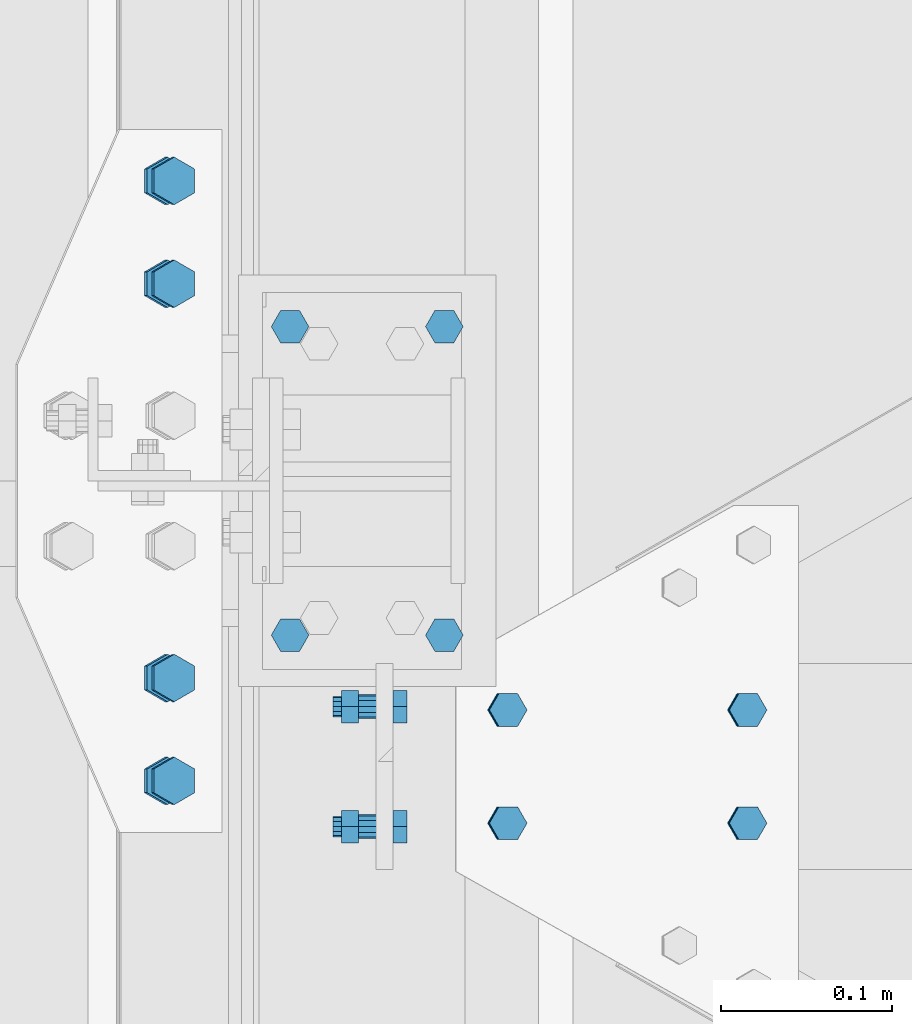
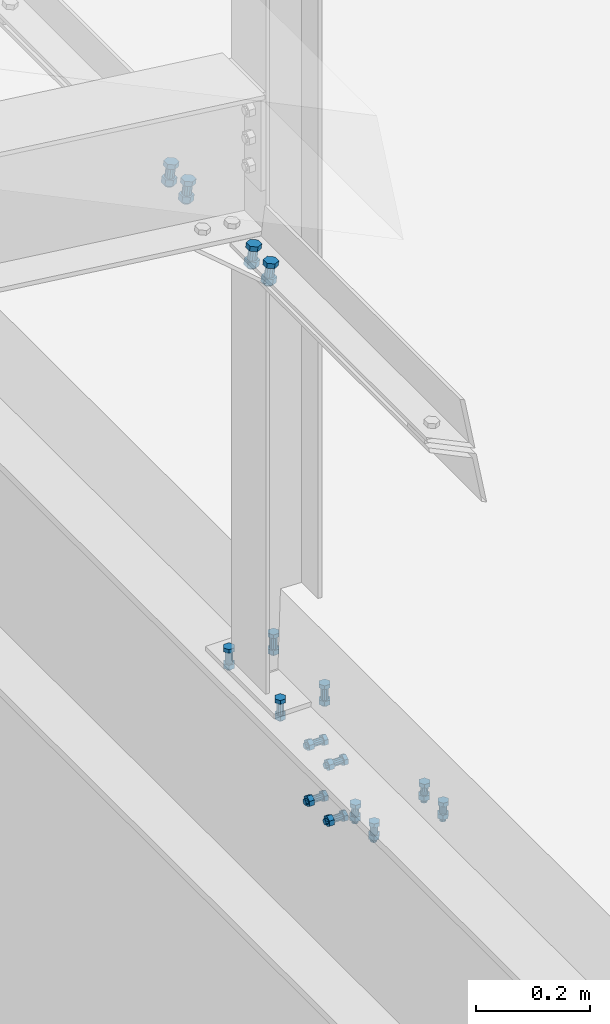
# One storey, part 379 of 3134: 5 mechanical fasteners, 4 elements without a shape of their own.
"""IFC2X3 building model written with IfcOpenShell, lengths in millimetres."""

from ifc_helpers import new_model, si_unit, frame, origin_with_axes, place, context, subcontext, project, spatial, faceted_brep, source, transform, mapped, material, type_object, element, aggregate, save


model = new_model("IFC2X3")

# Units and contexts
model_context = context("Model", 3, precision=1e-05, world=origin_with_axes())
body_context = subcontext(model_context, "Body", "Model", "MODEL_VIEW")
ifc_project = project(units=[si_unit("LENGTHUNIT", "METRE", prefix="MILLI"), si_unit("AREAUNIT", "SQUARE_METRE"), si_unit("VOLUMEUNIT", "CUBIC_METRE"), si_unit("MASSUNIT", "GRAM", prefix="KILO"), si_unit("TIMEUNIT", "SECOND"), si_unit("PLANEANGLEUNIT", "RADIAN"), si_unit("SOLIDANGLEUNIT", "STERADIAN"), si_unit("THERMODYNAMICTEMPERATUREUNIT", "DEGREE_CELSIUS"), si_unit("LUMINOUSINTENSITYUNIT", "LUMEN")], contexts=[model_context])

# Site, building, storey
site_placement = place(None, origin_with_axes())
site = spatial("IfcSite", under=ifc_project, at=site_placement, CompositionType="ELEMENT")
building_placement = place(site_placement, origin_with_axes())
building = spatial("IfcBuilding", under=site, at=building_placement, Name="Undefined", CompositionType="ELEMENT")
storey_placement = place(building_placement, origin_with_axes())
storey = spatial("IfcBuildingStorey", under=building, at=storey_placement, Name="Undefined", CompositionType="ELEMENT", Elevation=0.0)

# Assembly, mechanical fasteners
assembly_1_placement = place(storey_placement, origin_with_axes())
assembly_1 = element("IfcElementAssembly", 1, at=assembly_1_placement, inside=storey, Name="IPE500", AssemblyPlace="NOTDEFINED", PredefinedType="RIGID_FRAME")
ifc_material = material(Name="8.8")
mechanical_fastener_type = type_object("IfcMechanicalFastenerType", Name="Bolt assembly")
shared_shape_1 = source(origin_with_axes(), body_context, "Body", "Brep", [
    faceted_brep([(10.9696551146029, -18.0, 0.0), (5.48482755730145, -18.0, 9.5), (-5.48482755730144, -18.0, 9.5), (-10.9696551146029, -18.0, 1.34339530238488e-15), (-5.48482755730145, -18.0, -9.5), (5.48482755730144, -18.0, -9.50000000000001), (5.48482755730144, -10.0, -9.50000000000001), (-5.48482755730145, -10.0, -9.5), (-10.9696551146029, -10.0, 1.34339530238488e-15), (-5.48482755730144, -10.0, 9.5), (5.48482755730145, -10.0, 9.5), (10.9696551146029, -10.0, 0.0), (6.0, -10.0, 0.0), (5.19615242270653, -10.0, 3.00000000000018), (2.99999999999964, -10.0, 5.19615242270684), (-6.21801588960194e-13, -10.0, 6.0), (-3.00000000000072, -10.0, 5.19615242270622), (-5.19615242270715, -10.0, 2.9999999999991), (-6.0, -10.0, -1.24360317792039e-12), (-5.19615242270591, -10.0, -3.00000000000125), (-2.99999999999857, -10.0, -5.19615242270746), (1.85874342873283e-12, -10.0, -6.0), (3.00000000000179, -10.0, -5.1961524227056), (5.19615242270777, -10.0, -2.99999999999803), (5.19615242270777, 30.0, -2.99999999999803), (3.00000000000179, 30.0, -5.1961524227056), (1.85874342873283e-12, 30.0, -6.0), (-2.99999999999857, 30.0, -5.19615242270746), (-5.19615242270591, 30.0, -3.00000000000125), (-6.0, 30.0, -1.24360317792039e-12), (-5.19615242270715, 30.0, 2.9999999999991), (-3.00000000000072, 30.0, 5.19615242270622), (-6.21801588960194e-13, 30.0, 6.0), (2.99999999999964, 30.0, 5.19615242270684), (5.19615242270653, 30.0, 3.00000000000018), (6.0, 30.0, 0.0), (10.9696551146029, 16.0, 0.0), (5.48482755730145, 16.0, 9.5), (-5.48482755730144, 16.0, 9.5), (-10.9696551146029, 16.0, 1.34339530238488e-15), (-5.48482755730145, 16.0, -9.5), (5.48482755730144, 16.0, -9.50000000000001), (5.48482755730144, 26.0000003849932, -9.50000000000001), (-5.48482755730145, 26.0000003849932, -9.5), (-10.9696551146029, 26.0000003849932, 1.34339530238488e-15), (-5.48482755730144, 26.0000003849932, 9.5), (5.48482755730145, 26.0000003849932, 9.5), (10.9696551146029, 26.0000003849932, 0.0)], [[[0, 1, 2, 3, 4, 5]], [[6, 7, 8, 9, 10, 11]], [[0, 11, 10, 1]], [[1, 10, 9, 2]], [[2, 9, 8, 3]], [[3, 8, 7, 4]], [[4, 7, 6, 5]], [[5, 6, 11, 0]], [[12, 13, 14, 15, 16, 17, 18, 19, 20, 21, 22, 23]], [[24, 25, 26, 27, 28, 29, 30, 31, 32, 33, 34, 35]], [[12, 35, 34, 13]], [[13, 34, 33, 14]], [[14, 33, 32, 15]], [[15, 32, 31, 16]], [[16, 31, 30, 17]], [[17, 30, 29, 18]], [[18, 29, 28, 19]], [[19, 28, 27, 20]], [[20, 27, 26, 21]], [[21, 26, 25, 22]], [[22, 25, 24, 23]], [[23, 24, 35, 12]], [[36, 37, 38, 39, 40, 41]], [[42, 43, 44, 45, 46, 47]], [[36, 47, 46, 37]], [[37, 46, 45, 38]], [[38, 45, 44, 39]], [[39, 44, 43, 40]], [[40, 43, 42, 41]], [[41, 42, 47, 36]]]),
    faceted_brep([(7.0, -9.89999913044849, 0.0), (6.06217782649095, -9.89999913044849, 3.50000000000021), (3.49999999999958, -9.89999913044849, 6.06217782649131), (-7.25435187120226e-13, -9.89999913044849, 7.0), (-3.50000000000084, -9.89999913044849, 6.06217782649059), (-6.06217782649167, -9.89999913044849, 3.49999999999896), (-7.0, -9.89999913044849, -1.45087037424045e-12), (-6.06217782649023, -9.89999913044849, -3.50000000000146), (-3.49999999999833, -9.89999913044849, -6.06217782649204), (2.1685340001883e-12, -9.89999913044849, -7.0), (3.50000000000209, -9.89999913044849, -6.06217782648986), (6.0621778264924, -9.89999913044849, -3.4999999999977), (6.0621778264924, 0.0999999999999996, -3.4999999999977), (3.50000000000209, 0.0999999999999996, -6.06217782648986), (2.1685340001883e-12, 0.0999999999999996, -7.0), (-3.49999999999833, 0.0999999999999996, -6.06217782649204), (-6.06217782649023, 0.0999999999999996, -3.50000000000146), (-7.0, 0.0999999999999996, -1.45087037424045e-12), (-6.06217782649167, 0.0999999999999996, 3.49999999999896), (-3.50000000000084, 0.0999999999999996, 6.06217782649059), (-7.25435187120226e-13, 0.0999999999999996, 7.0), (3.49999999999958, 0.0999999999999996, 6.06217782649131), (6.06217782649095, 0.0999999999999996, 3.50000000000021), (7.0, 0.0999999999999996, 0.0), (7.0, -0.1, 0.0), (6.06217782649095, -0.1, 3.50000000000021), (3.49999999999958, -0.1, 6.06217782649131), (-7.25435187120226e-13, -0.1, 7.0), (-3.50000000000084, -0.1, 6.06217782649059), (-6.06217782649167, -0.1, 3.49999999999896), (-7.0, -0.1, -1.45087037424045e-12), (-6.06217782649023, -0.1, -3.50000000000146), (-3.49999999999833, -0.1, -6.06217782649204), (2.1685340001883e-12, -0.1, -7.0), (3.50000000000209, -0.1, -6.06217782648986), (6.0621778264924, -0.1, -3.4999999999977), (6.0621778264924, 16.0000003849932, -3.4999999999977), (3.50000000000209, 16.0000003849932, -6.06217782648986), (2.1685340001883e-12, 16.0000003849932, -7.0), (-3.49999999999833, 16.0000003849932, -6.06217782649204), (-6.06217782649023, 16.0000003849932, -3.50000000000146), (-7.0, 16.0000003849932, -1.45087037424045e-12), (-6.06217782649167, 16.0000003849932, 3.49999999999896), (-3.50000000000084, 16.0000003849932, 6.06217782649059), (-7.25435187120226e-13, 16.0000003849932, 7.0), (3.49999999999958, 16.0000003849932, 6.06217782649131), (6.06217782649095, 16.0000003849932, 3.50000000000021), (7.0, 16.0000003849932, 0.0)], [[[0, 1, 2, 3, 4, 5, 6, 7, 8, 9, 10, 11]], [[12, 13, 14, 15, 16, 17, 18, 19, 20, 21, 22, 23]], [[0, 23, 22, 1]], [[1, 22, 21, 2]], [[2, 21, 20, 3]], [[3, 20, 19, 4]], [[4, 19, 18, 5]], [[5, 18, 17, 6]], [[6, 17, 16, 7]], [[7, 16, 15, 8]], [[8, 15, 14, 9]], [[9, 14, 13, 10]], [[10, 13, 12, 11]], [[11, 12, 23, 0]], [[24, 25, 26, 27, 28, 29, 30, 31, 32, 33, 34, 35]], [[36, 37, 38, 39, 40, 41, 42, 43, 44, 45, 46, 47]], [[24, 47, 46, 25]], [[25, 46, 45, 26]], [[26, 45, 44, 27]], [[27, 44, 43, 28]], [[28, 43, 42, 29]], [[29, 42, 41, 30]], [[30, 41, 40, 31]], [[31, 40, 39, 32]], [[32, 39, 38, 33]], [[33, 38, 37, 34]], [[34, 37, 36, 35]], [[35, 36, 47, 24]]]),
])
mechanical_fastener_1_placement = place(assembly_1_placement, frame((71770.0, 22049.9999999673, 4000.00000038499), z_axis=(0.0, 1.0, 0.0), x_axis=(1.0, 0.0, 0.0)))
mechanical_fastener_1 = element("IfcMechanicalFastener", 2, at=mechanical_fastener_1_placement, type_object=mechanical_fastener_type, material=ifc_material, Name="Bolt assembly", NominalDiameter=12.0, NominalLength=40.0, context=body_context, shape_type="MappedRepresentation", body=[
    mapped(shared_shape_1, transform((0.0, 0.0, -90.0))),
    mapped(shared_shape_1, transform((90.0, 0.0, -90.0))),
    mapped(shared_shape_1, transform((0.0, 0.0, 90.0))),
    mapped(shared_shape_1, transform((90.0, 0.0, 90.0))),
])
shared_shape_2 = source(origin_with_axes(), body_context, "Body", "Brep", [
    faceted_brep([(10.9696551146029, -18.0, 0.0), (5.48482755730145, -18.0, 9.5), (-5.48482755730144, -18.0, 9.5), (-10.9696551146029, -18.0, 1.34339530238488e-15), (-5.48482755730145, -18.0, -9.5), (5.48482755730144, -18.0, -9.50000000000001), (5.48482755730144, -10.0, -9.50000000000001), (-5.48482755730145, -10.0, -9.5), (-10.9696551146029, -10.0, 1.34339530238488e-15), (-5.48482755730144, -10.0, 9.5), (5.48482755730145, -10.0, 9.5), (10.9696551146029, -10.0, 0.0), (6.0, -10.0, 0.0), (5.19615242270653, -10.0, 3.00000000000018), (2.99999999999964, -10.0, 5.19615242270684), (-6.21801588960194e-13, -10.0, 6.0), (-3.00000000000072, -10.0, 5.19615242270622), (-5.19615242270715, -10.0, 2.9999999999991), (-6.0, -10.0, -1.24360317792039e-12), (-5.19615242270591, -10.0, -3.00000000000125), (-2.99999999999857, -10.0, -5.19615242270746), (1.85874342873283e-12, -10.0, -6.0), (3.00000000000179, -10.0, -5.1961524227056), (5.19615242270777, -10.0, -2.99999999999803), (5.19615242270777, 24.9999999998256, -2.99999999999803), (3.00000000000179, 24.9999999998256, -5.1961524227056), (1.85874342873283e-12, 24.9999999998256, -6.0), (-2.99999999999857, 24.9999999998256, -5.19615242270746), (-5.19615242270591, 24.9999999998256, -3.00000000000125), (-6.0, 24.9999999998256, -1.24360317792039e-12), (-5.19615242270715, 24.9999999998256, 2.9999999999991), (-3.00000000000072, 24.9999999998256, 5.19615242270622), (-6.21801588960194e-13, 24.9999999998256, 6.0), (2.99999999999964, 24.9999999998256, 5.19615242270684), (5.19615242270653, 24.9999999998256, 3.00000000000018), (6.0, 24.9999999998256, 0.0), (10.9696551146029, 10.1999998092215, 0.0), (5.48482755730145, 10.1999998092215, 9.5), (-5.48482755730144, 10.1999998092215, 9.5), (-10.9696551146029, 10.1999998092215, 1.34339530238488e-15), (-5.48482755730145, 10.1999998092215, -9.5), (5.48482755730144, 10.1999998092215, -9.50000000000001), (5.48482755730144, 20.1999998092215, -9.50000000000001), (-5.48482755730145, 20.1999998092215, -9.5), (-10.9696551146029, 20.1999998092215, 1.34339530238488e-15), (-5.48482755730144, 20.1999998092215, 9.5), (5.48482755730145, 20.1999998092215, 9.5), (10.9696551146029, 20.1999998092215, 0.0)], [[[0, 1, 2, 3, 4, 5]], [[6, 7, 8, 9, 10, 11]], [[0, 11, 10, 1]], [[1, 10, 9, 2]], [[2, 9, 8, 3]], [[3, 8, 7, 4]], [[4, 7, 6, 5]], [[5, 6, 11, 0]], [[12, 13, 14, 15, 16, 17, 18, 19, 20, 21, 22, 23]], [[24, 25, 26, 27, 28, 29, 30, 31, 32, 33, 34, 35]], [[12, 35, 34, 13]], [[13, 34, 33, 14]], [[14, 33, 32, 15]], [[15, 32, 31, 16]], [[16, 31, 30, 17]], [[17, 30, 29, 18]], [[18, 29, 28, 19]], [[19, 28, 27, 20]], [[20, 27, 26, 21]], [[21, 26, 25, 22]], [[22, 25, 24, 23]], [[23, 24, 35, 12]], [[36, 37, 38, 39, 40, 41]], [[42, 43, 44, 45, 46, 47]], [[36, 47, 46, 37]], [[37, 46, 45, 38]], [[38, 45, 44, 39]], [[39, 44, 43, 40]], [[40, 43, 42, 41]], [[41, 42, 47, 36]]]),
    faceted_brep([(7.0, -9.89999913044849, 0.0), (6.06217782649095, -9.89999913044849, 3.50000000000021), (3.49999999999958, -9.89999913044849, 6.06217782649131), (-7.25435187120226e-13, -9.89999913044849, 7.0), (-3.50000000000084, -9.89999913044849, 6.06217782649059), (-6.06217782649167, -9.89999913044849, 3.49999999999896), (-7.0, -9.89999913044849, -1.45087037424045e-12), (-6.06217782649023, -9.89999913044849, -3.50000000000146), (-3.49999999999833, -9.89999913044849, -6.06217782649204), (2.1685340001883e-12, -9.89999913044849, -7.0), (3.50000000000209, -9.89999913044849, -6.06217782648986), (6.0621778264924, -9.89999913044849, -3.4999999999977), (6.0621778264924, 0.0999999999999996, -3.4999999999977), (3.50000000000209, 0.0999999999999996, -6.06217782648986), (2.1685340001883e-12, 0.0999999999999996, -7.0), (-3.49999999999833, 0.0999999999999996, -6.06217782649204), (-6.06217782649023, 0.0999999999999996, -3.50000000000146), (-7.0, 0.0999999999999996, -1.45087037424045e-12), (-6.06217782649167, 0.0999999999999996, 3.49999999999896), (-3.50000000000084, 0.0999999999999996, 6.06217782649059), (-7.25435187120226e-13, 0.0999999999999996, 7.0), (3.49999999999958, 0.0999999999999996, 6.06217782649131), (6.06217782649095, 0.0999999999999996, 3.50000000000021), (7.0, 0.0999999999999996, 0.0), (7.0, -0.1, 0.0), (6.06217782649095, -0.1, 3.50000000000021), (3.49999999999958, -0.1, 6.06217782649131), (-7.25435187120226e-13, -0.1, 7.0), (-3.50000000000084, -0.1, 6.06217782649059), (-6.06217782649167, -0.1, 3.49999999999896), (-7.0, -0.1, -1.45087037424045e-12), (-6.06217782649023, -0.1, -3.50000000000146), (-3.49999999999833, -0.1, -6.06217782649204), (2.1685340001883e-12, -0.1, -7.0), (3.50000000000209, -0.1, -6.06217782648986), (6.0621778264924, -0.1, -3.4999999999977), (6.0621778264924, 10.1999998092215, -3.4999999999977), (3.50000000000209, 10.1999998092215, -6.06217782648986), (2.1685340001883e-12, 10.1999998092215, -7.0), (-3.49999999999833, 10.1999998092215, -6.06217782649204), (-6.06217782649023, 10.1999998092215, -3.50000000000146), (-7.0, 10.1999998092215, -1.45087037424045e-12), (-6.06217782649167, 10.1999998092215, 3.49999999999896), (-3.50000000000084, 10.1999998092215, 6.06217782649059), (-7.25435187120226e-13, 10.1999998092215, 7.0), (3.49999999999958, 10.1999998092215, 6.06217782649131), (6.06217782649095, 10.1999998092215, 3.50000000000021), (7.0, 10.1999998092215, 0.0)], [[[0, 1, 2, 3, 4, 5, 6, 7, 8, 9, 10, 11]], [[12, 13, 14, 15, 16, 17, 18, 19, 20, 21, 22, 23]], [[0, 23, 22, 1]], [[1, 22, 21, 2]], [[2, 21, 20, 3]], [[3, 20, 19, 4]], [[4, 19, 18, 5]], [[5, 18, 17, 6]], [[6, 17, 16, 7]], [[7, 16, 15, 8]], [[8, 15, 14, 9]], [[9, 14, 13, 10]], [[10, 13, 12, 11]], [[11, 12, 23, 0]], [[24, 25, 26, 27, 28, 29, 30, 31, 32, 33, 34, 35]], [[36, 37, 38, 39, 40, 41, 42, 43, 44, 45, 46, 47]], [[24, 47, 46, 25]], [[25, 46, 45, 26]], [[26, 45, 44, 27]], [[27, 44, 43, 28]], [[28, 43, 42, 29]], [[29, 42, 41, 30]], [[30, 41, 40, 31]], [[31, 40, 39, 32]], [[32, 39, 38, 33]], [[33, 38, 37, 34]], [[34, 37, 36, 35]], [[35, 36, 47, 24]]]),
])
mechanical_fastener_2_placement = place(assembly_1_placement, frame((71820.0999999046, 21883.333332, 3929.41660800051), z_axis=(0.0, 1.0, 0.0), x_axis=(0.0, 0.0, -1.0)))
mechanical_fastener_2 = element("IfcMechanicalFastener", 3, at=mechanical_fastener_2_placement, type_object=mechanical_fastener_type, material=ifc_material, Name="Bolt assembly", NominalDiameter=12.0, NominalLength=35.0, context=body_context, shape_type="MappedRepresentation", body=[
    mapped(shared_shape_2, transform((0.0, 0.0, -35.0))),
    mapped(shared_shape_2, transform((120.0, 0.0, -35.0))),
    mapped(shared_shape_2, transform((0.0, 0.0, 35.0))),
    mapped(shared_shape_2, transform((120.0, 0.0, 35.0))),
])
aggregate(assembly_1, [mechanical_fastener_2, mechanical_fastener_1])

# Assembly, mechanical fastener
assembly_2_placement = place(storey_placement, origin_with_axes())
assembly_2 = element("IfcElementAssembly", 4, at=assembly_2_placement, inside=storey, Name="IPE240", AssemblyPlace="NOTDEFINED", PredefinedType="RIGID_FRAME")
shared_shape_3 = source(origin_with_axes(), body_context, "Body", "Brep", [
    faceted_brep([(10.9696551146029, -17.8000021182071, 0.0), (5.48482755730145, -17.8000021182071, 9.5), (-5.48482755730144, -17.8000021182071, 9.5), (-10.9696551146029, -17.8000021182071, 1.34339530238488e-15), (-5.48482755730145, -17.8000021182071, -9.5), (5.48482755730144, -17.8000021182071, -9.50000000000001), (5.48482755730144, -9.80000211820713, -9.50000000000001), (-5.48482755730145, -9.80000211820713, -9.5), (-10.9696551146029, -9.80000211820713, 1.34339530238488e-15), (-5.48482755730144, -9.80000211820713, 9.5), (5.48482755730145, -9.80000211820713, 9.5), (10.9696551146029, -9.80000211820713, 0.0), (6.0, -9.80000211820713, 0.0), (5.19615242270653, -9.80000211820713, 3.00000000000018), (2.99999999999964, -9.80000211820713, 5.19615242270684), (-6.21801588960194e-13, -9.80000211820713, 6.0), (-3.00000000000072, -9.80000211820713, 5.19615242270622), (-5.19615242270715, -9.80000211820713, 2.9999999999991), (-6.0, -9.80000211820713, -1.24360317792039e-12), (-5.19615242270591, -9.80000211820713, -3.00000000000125), (-2.99999999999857, -9.80000211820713, -5.19615242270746), (1.85874342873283e-12, -9.80000211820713, -6.0), (3.00000000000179, -9.80000211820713, -5.1961524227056), (5.19615242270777, -9.80000211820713, -2.99999999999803), (5.19615242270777, 25.1999978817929, -2.99999999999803), (3.00000000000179, 25.1999978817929, -5.1961524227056), (1.85874342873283e-12, 25.1999978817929, -6.0), (-2.99999999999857, 25.1999978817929, -5.19615242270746), (-5.19615242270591, 25.1999978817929, -3.00000000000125), (-6.0, 25.1999978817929, -1.24360317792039e-12), (-5.19615242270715, 25.1999978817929, 2.9999999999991), (-3.00000000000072, 25.1999978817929, 5.19615242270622), (-6.21801588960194e-13, 25.1999978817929, 6.0), (2.99999999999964, 25.1999978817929, 5.19615242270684), (5.19615242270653, 25.1999978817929, 3.00000000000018), (6.0, 25.1999978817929, 0.0), (10.9696551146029, 8.0, 0.0), (5.48482755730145, 8.0, 9.5), (-5.48482755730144, 8.0, 9.5), (-10.9696551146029, 8.0, 1.34339530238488e-15), (-5.48482755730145, 8.0, -9.5), (5.48482755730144, 8.0, -9.50000000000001), (5.48482755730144, 18.0, -9.50000000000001), (-5.48482755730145, 18.0, -9.5), (-10.9696551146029, 18.0, 1.34339530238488e-15), (-5.48482755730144, 18.0, 9.5), (5.48482755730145, 18.0, 9.5), (10.9696551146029, 18.0, 0.0)], [[[0, 1, 2, 3, 4, 5]], [[6, 7, 8, 9, 10, 11]], [[0, 11, 10, 1]], [[1, 10, 9, 2]], [[2, 9, 8, 3]], [[3, 8, 7, 4]], [[4, 7, 6, 5]], [[5, 6, 11, 0]], [[12, 13, 14, 15, 16, 17, 18, 19, 20, 21, 22, 23]], [[24, 25, 26, 27, 28, 29, 30, 31, 32, 33, 34, 35]], [[12, 35, 34, 13]], [[13, 34, 33, 14]], [[14, 33, 32, 15]], [[15, 32, 31, 16]], [[16, 31, 30, 17]], [[17, 30, 29, 18]], [[18, 29, 28, 19]], [[19, 28, 27, 20]], [[20, 27, 26, 21]], [[21, 26, 25, 22]], [[22, 25, 24, 23]], [[23, 24, 35, 12]], [[36, 37, 38, 39, 40, 41]], [[42, 43, 44, 45, 46, 47]], [[36, 47, 46, 37]], [[37, 46, 45, 38]], [[38, 45, 44, 39]], [[39, 44, 43, 40]], [[40, 43, 42, 41]], [[41, 42, 47, 36]]]),
    faceted_brep([(7.0, -0.1, 0.0), (6.06217782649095, -0.1, 3.50000000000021), (3.49999999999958, -0.1, 6.06217782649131), (-7.25435187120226e-13, -0.1, 7.0), (-3.50000000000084, -0.1, 6.06217782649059), (-6.06217782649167, -0.1, 3.49999999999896), (-7.0, -0.1, -1.45087037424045e-12), (-6.06217782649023, -0.1, -3.50000000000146), (-3.49999999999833, -0.1, -6.06217782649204), (2.1685340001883e-12, -0.1, -7.0), (3.50000000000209, -0.1, -6.06217782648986), (6.0621778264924, -0.1, -3.4999999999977), (6.0621778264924, 8.0000000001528, -3.4999999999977), (3.50000000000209, 8.0000000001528, -6.06217782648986), (2.1685340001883e-12, 8.0000000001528, -7.0), (-3.49999999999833, 8.0000000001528, -6.06217782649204), (-6.06217782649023, 8.0000000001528, -3.50000000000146), (-7.0, 8.0000000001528, -1.45087037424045e-12), (-6.06217782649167, 8.0000000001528, 3.49999999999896), (-3.50000000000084, 8.0000000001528, 6.06217782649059), (-7.25435187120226e-13, 8.0000000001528, 7.0), (3.49999999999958, 8.0000000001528, 6.06217782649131), (6.06217782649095, 8.0000000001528, 3.50000000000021), (7.0, 8.0000000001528, 0.0), (7.0, -9.70000211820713, 0.0), (6.06217782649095, -9.70000211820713, 3.50000000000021), (3.49999999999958, -9.70000211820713, 6.06217782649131), (-7.25435187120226e-13, -9.70000211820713, 7.0), (-3.50000000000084, -9.70000211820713, 6.06217782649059), (-6.06217782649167, -9.70000211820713, 3.49999999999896), (-7.0, -9.70000211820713, -1.45087037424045e-12), (-6.06217782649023, -9.70000211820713, -3.50000000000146), (-3.49999999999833, -9.70000211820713, -6.06217782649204), (2.1685340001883e-12, -9.70000211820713, -7.0), (3.50000000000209, -9.70000211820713, -6.06217782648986), (6.0621778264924, -9.70000211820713, -3.4999999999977), (6.0621778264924, 0.0999999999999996, -3.4999999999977), (3.50000000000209, 0.0999999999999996, -6.06217782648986), (2.1685340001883e-12, 0.0999999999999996, -7.0), (-3.49999999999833, 0.0999999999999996, -6.06217782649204), (-6.06217782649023, 0.0999999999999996, -3.50000000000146), (-7.0, 0.0999999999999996, -1.45087037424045e-12), (-6.06217782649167, 0.0999999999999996, 3.49999999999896), (-3.50000000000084, 0.0999999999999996, 6.06217782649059), (-7.25435187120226e-13, 0.0999999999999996, 7.0), (3.49999999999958, 0.0999999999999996, 6.06217782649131), (6.06217782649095, 0.0999999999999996, 3.50000000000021), (7.0, 0.0999999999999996, 0.0)], [[[0, 1, 2, 3, 4, 5, 6, 7, 8, 9, 10, 11]], [[12, 13, 14, 15, 16, 17, 18, 19, 20, 21, 22, 23]], [[0, 23, 22, 1]], [[1, 22, 21, 2]], [[2, 21, 20, 3]], [[3, 20, 19, 4]], [[4, 19, 18, 5]], [[5, 18, 17, 6]], [[6, 17, 16, 7]], [[7, 16, 15, 8]], [[8, 15, 14, 9]], [[9, 14, 13, 10]], [[10, 13, 12, 11]], [[11, 12, 23, 0]], [[24, 25, 26, 27, 28, 29, 30, 31, 32, 33, 34, 35]], [[36, 37, 38, 39, 40, 41, 42, 43, 44, 45, 46, 47]], [[24, 47, 46, 25]], [[25, 46, 45, 26]], [[26, 45, 44, 27]], [[27, 44, 43, 28]], [[28, 43, 42, 29]], [[29, 42, 41, 30]], [[30, 41, 40, 31]], [[31, 40, 39, 32]], [[32, 39, 38, 33]], [[33, 38, 37, 34]], [[34, 37, 36, 35]], [[35, 36, 47, 24]]]),
])
mechanical_fastener_3_placement = place(assembly_2_placement, frame((72036.6725219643, 21883.3332750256, 3753.01286267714), z_axis=(1.20000009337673e-06, -0.99999999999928, 0.0), x_axis=(-0.999519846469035, -1.79913593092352e-06, 0.0309851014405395)))
mechanical_fastener_3 = element("IfcMechanicalFastener", 5, at=mechanical_fastener_3_placement, type_object=mechanical_fastener_type, material=ifc_material, Name="Bolt assembly", NominalDiameter=12.0, NominalLength=35.0, context=body_context, shape_type="MappedRepresentation", body=[
    mapped(shared_shape_3, transform((0.0, 0.0, -33.0))),
    mapped(shared_shape_3, transform((140.000000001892, -1.64072844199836e-09, -32.9999999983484))),
    mapped(shared_shape_3, transform((0.0, 0.0, 33.0))),
    mapped(shared_shape_3, transform((140.000000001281, -1.73167791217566e-09, 33.0000000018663))),
])
aggregate(assembly_2, [mechanical_fastener_3])

assembly_3_placement = place(storey_placement, origin_with_axes())
assembly_3 = element("IfcElementAssembly", 6, at=assembly_3_placement, inside=storey, AssemblyPlace="NOTDEFINED", PredefinedType="RIGID_FRAME")
shared_shape_4 = source(origin_with_axes(), body_context, "Body", "Brep", [
    faceted_brep([(13.856406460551, -21.0000017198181, 0.0), (6.92820323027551, -21.0000017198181, 12.0), (-6.92820323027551, -21.0000017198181, 12.0), (-13.856406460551, -21.0000017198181, 1.69692038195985e-15), (-6.92820323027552, -21.0000017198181, -12.0), (6.9282032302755, -21.0000017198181, -12.0), (6.9282032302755, -11.0000017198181, -12.0), (-6.92820323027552, -11.0000017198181, -12.0), (-13.856406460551, -11.0000017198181, 1.69692038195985e-15), (-6.92820323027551, -11.0000017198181, 12.0), (6.92820323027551, -11.0000017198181, 12.0), (13.856406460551, -11.0000017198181, 0.0), (8.0, -11.0000017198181, 0.0), (6.92820323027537, -11.0000017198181, 4.00000000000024), (3.99999999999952, -11.0000017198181, 6.92820323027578), (-8.29068785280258e-13, -11.0000017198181, 8.0), (-4.00000000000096, -11.0000017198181, 6.92820323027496), (-6.9282032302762, -11.0000017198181, 3.99999999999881), (-8.0, -11.0000017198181, -1.65813757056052e-12), (-6.92820323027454, -11.0000017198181, -4.00000000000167), (-3.99999999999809, -11.0000017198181, -6.92820323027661), (2.47832457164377e-12, -11.0000017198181, -8.0), (4.00000000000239, -11.0000017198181, -6.92820323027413), (6.92820323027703, -11.0000017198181, -3.99999999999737), (6.92820323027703, 29.0, -3.99999999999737), (4.00000000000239, 29.0, -6.92820323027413), (2.47832457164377e-12, 29.0, -8.0), (-3.99999999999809, 29.0, -6.92820323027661), (-6.92820323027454, 29.0, -4.00000000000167), (-8.0, 29.0, -1.65813757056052e-12), (-6.9282032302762, 29.0, 3.99999999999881), (-4.00000000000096, 29.0, 6.92820323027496), (-8.29068785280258e-13, 29.0, 8.0), (3.99999999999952, 29.0, 6.92820323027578), (6.92820323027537, 29.0, 4.00000000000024), (8.0, 29.0, 0.0), (13.856406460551, 10.9979999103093, 0.0), (6.92820323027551, 10.9979999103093, 12.0), (-6.92820323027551, 10.9979999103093, 12.0), (-13.856406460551, 10.9979999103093, 1.69692038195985e-15), (-6.92820323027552, 10.9979999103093, -12.0), (6.9282032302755, 10.9979999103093, -12.0), (6.9282032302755, 23.9979999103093, -12.0), (-6.92820323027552, 23.9979999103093, -12.0), (-13.856406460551, 23.9979999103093, 1.69692038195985e-15), (-6.92820323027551, 23.9979999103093, 12.0), (6.92820323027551, 23.9979999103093, 12.0), (13.856406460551, 23.9979999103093, 0.0)], [[[0, 1, 2, 3, 4, 5]], [[6, 7, 8, 9, 10, 11]], [[0, 11, 10, 1]], [[1, 10, 9, 2]], [[2, 9, 8, 3]], [[3, 8, 7, 4]], [[4, 7, 6, 5]], [[5, 6, 11, 0]], [[12, 13, 14, 15, 16, 17, 18, 19, 20, 21, 22, 23]], [[24, 25, 26, 27, 28, 29, 30, 31, 32, 33, 34, 35]], [[12, 35, 34, 13]], [[13, 34, 33, 14]], [[14, 33, 32, 15]], [[15, 32, 31, 16]], [[16, 31, 30, 17]], [[17, 30, 29, 18]], [[18, 29, 28, 19]], [[19, 28, 27, 20]], [[20, 27, 26, 21]], [[21, 26, 25, 22]], [[22, 25, 24, 23]], [[23, 24, 35, 12]], [[36, 37, 38, 39, 40, 41]], [[42, 43, 44, 45, 46, 47]], [[36, 47, 46, 37]], [[37, 46, 45, 38]], [[38, 45, 44, 39]], [[39, 44, 43, 40]], [[40, 43, 42, 41]], [[41, 42, 47, 36]]]),
    faceted_brep([(9.0, -10.9000017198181, 0.0), (7.79422863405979, -10.9000017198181, 4.50000000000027), (4.49999999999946, -10.9000017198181, 7.79422863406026), (-9.3270238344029e-13, -10.9000017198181, 9.0), (-4.50000000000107, -10.9000017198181, 7.79422863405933), (-7.79422863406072, -10.9000017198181, 4.49999999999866), (-9.0, -10.9000017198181, -1.86540476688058e-12), (-7.79422863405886, -10.9000017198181, -4.50000000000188), (-4.49999999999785, -10.9000017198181, -7.79422863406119), (2.78811514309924e-12, -10.9000017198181, -9.0), (4.50000000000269, -10.9000017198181, -7.7942286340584), (7.79422863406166, -10.9000017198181, -4.49999999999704), (7.79422863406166, -3.9, -4.49999999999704), (4.50000000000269, -3.9, -7.7942286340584), (2.78811514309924e-12, -3.9, -9.0), (-4.49999999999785, -3.9, -7.79422863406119), (-7.79422863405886, -3.9, -4.50000000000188), (-9.0, -3.9, -1.86540476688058e-12), (-7.79422863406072, -3.9, 4.49999999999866), (-4.50000000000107, -3.9, 7.79422863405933), (-9.3270238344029e-13, -3.9, 9.0), (4.49999999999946, -3.9, 7.79422863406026), (7.79422863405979, -3.9, 4.50000000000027), (9.0, -3.9, 0.0), (9.0, 3.89799991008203, 0.0), (7.79422863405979, 3.89799991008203, 4.50000000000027), (4.49999999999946, 3.89799991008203, 7.79422863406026), (-9.3270238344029e-13, 3.89799991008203, 9.0), (-4.50000000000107, 3.89799991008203, 7.79422863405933), (-7.79422863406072, 3.89799991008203, 4.49999999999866), (-9.0, 3.89799991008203, -1.86540476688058e-12), (-7.79422863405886, 3.89799991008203, -4.50000000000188), (-4.49999999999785, 3.89799991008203, -7.79422863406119), (2.78811514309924e-12, 3.89799991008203, -9.0), (4.50000000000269, 3.89799991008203, -7.7942286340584), (7.79422863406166, 3.89799991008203, -4.49999999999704), (7.79422863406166, 10.9979999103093, -4.49999999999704), (4.50000000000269, 10.9979999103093, -7.7942286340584), (2.78811514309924e-12, 10.9979999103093, -9.0), (-4.49999999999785, 10.9979999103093, -7.79422863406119), (-7.79422863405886, 10.9979999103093, -4.50000000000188), (-9.0, 10.9979999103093, -1.86540476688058e-12), (-7.79422863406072, 10.9979999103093, 4.49999999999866), (-4.50000000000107, 10.9979999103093, 7.79422863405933), (-9.3270238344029e-13, 10.9979999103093, 9.0), (4.49999999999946, 10.9979999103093, 7.79422863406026), (7.79422863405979, 10.9979999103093, 4.50000000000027), (9.0, 10.9979999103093, 0.0), (9.0, -3.99999624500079, 0.0), (7.79422863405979, -3.99999624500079, 4.50000000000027), (4.49999999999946, -3.99999624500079, 7.79422863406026), (-9.3270238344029e-13, -3.99999624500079, 9.0), (-4.50000000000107, -3.99999624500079, 7.79422863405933), (-7.79422863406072, -3.99999624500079, 4.49999999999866), (-9.0, -3.99999624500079, -1.86540476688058e-12), (-7.79422863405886, -3.99999624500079, -4.50000000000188), (-4.49999999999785, -3.99999624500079, -7.79422863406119), (2.78811514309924e-12, -3.99999624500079, -9.0), (4.50000000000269, -3.99999624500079, -7.7942286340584), (7.79422863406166, -3.99999624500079, -4.49999999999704), (7.79422863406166, 4.00000375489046, -4.49999999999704), (4.50000000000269, 4.00000375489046, -7.7942286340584), (2.78811514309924e-12, 4.00000375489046, -9.0), (-4.49999999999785, 4.00000375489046, -7.79422863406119), (-7.79422863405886, 4.00000375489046, -4.50000000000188), (-9.0, 4.00000375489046, -1.86540476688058e-12), (-7.79422863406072, 4.00000375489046, 4.49999999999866), (-4.50000000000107, 4.00000375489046, 7.79422863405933), (-9.3270238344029e-13, 4.00000375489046, 9.0), (4.49999999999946, 4.00000375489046, 7.79422863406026), (7.79422863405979, 4.00000375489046, 4.50000000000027), (9.0, 4.00000375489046, 0.0)], [[[0, 1, 2, 3, 4, 5, 6, 7, 8, 9, 10, 11]], [[12, 13, 14, 15, 16, 17, 18, 19, 20, 21, 22, 23]], [[0, 23, 22, 1]], [[1, 22, 21, 2]], [[2, 21, 20, 3]], [[3, 20, 19, 4]], [[4, 19, 18, 5]], [[5, 18, 17, 6]], [[6, 17, 16, 7]], [[7, 16, 15, 8]], [[8, 15, 14, 9]], [[9, 14, 13, 10]], [[10, 13, 12, 11]], [[11, 12, 23, 0]], [[24, 25, 26, 27, 28, 29, 30, 31, 32, 33, 34, 35]], [[36, 37, 38, 39, 40, 41, 42, 43, 44, 45, 46, 47]], [[24, 47, 46, 25]], [[25, 46, 45, 26]], [[26, 45, 44, 27]], [[27, 44, 43, 28]], [[28, 43, 42, 29]], [[29, 42, 41, 30]], [[30, 41, 40, 31]], [[31, 40, 39, 32]], [[32, 39, 38, 33]], [[33, 38, 37, 34]], [[34, 37, 36, 35]], [[35, 36, 47, 24]], [[48, 49, 50, 51, 52, 53, 54, 55, 56, 57, 58, 59]], [[60, 61, 62, 63, 64, 65, 66, 67, 68, 69, 70, 71]], [[48, 71, 70, 49]], [[49, 70, 69, 50]], [[50, 69, 68, 51]], [[51, 68, 67, 52]], [[52, 67, 66, 53]], [[53, 66, 65, 54]], [[54, 65, 64, 55]], [[55, 64, 63, 56]], [[56, 63, 62, 57]], [[57, 62, 61, 58]], [[58, 61, 60, 59]], [[59, 60, 71, 48]]]),
])
mechanical_fastener_4_placement = place(assembly_3_placement, frame((71699.8954149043, 22164.9999997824, 5008.88935537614), z_axis=(-0.992623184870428, 0.0, 0.121240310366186), x_axis=(0.0, 1.0, 0.0)))
mechanical_fastener_4 = element("IfcMechanicalFastener", 7, at=mechanical_fastener_4_placement, type_object=mechanical_fastener_type, material=ifc_material, Name="Bolt assembly", NominalDiameter=16.0, NominalLength=40.0, context=body_context, shape_type="MappedRepresentation", body=[
    mapped(shared_shape_4, transform((0.0, 0.0, 0.0))),
    mapped(shared_shape_4, transform((59.9999999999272, 0.0, 5.40239852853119e-10))),
])
aggregate(assembly_3, [mechanical_fastener_4])

assembly_4_placement = place(storey_placement, origin_with_axes())
assembly_4 = element("IfcElementAssembly", 8, at=assembly_4_placement, inside=storey, AssemblyPlace="NOTDEFINED", PredefinedType="RIGID_FRAME")
mechanical_fastener_5_placement = place(assembly_4_placement, frame((71699.8954149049, 21874.9999997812, 5008.88935537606), z_axis=(-0.992623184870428, 0.0, 0.121240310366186), x_axis=(0.0, 1.0, 0.0)))
mechanical_fastener_5 = element("IfcMechanicalFastener", 9, at=mechanical_fastener_5_placement, type_object=mechanical_fastener_type, material=ifc_material, Name="Bolt assembly", NominalDiameter=16.0, NominalLength=40.0, context=body_context, shape_type="MappedRepresentation", body=[
    mapped(shared_shape_4, transform((0.0, 0.0, 0.0))),
    mapped(shared_shape_4, transform((59.9999999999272, 0.0, 5.40239852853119e-10))),
])
aggregate(assembly_4, [mechanical_fastener_5])

save(model, "model.ifc")
